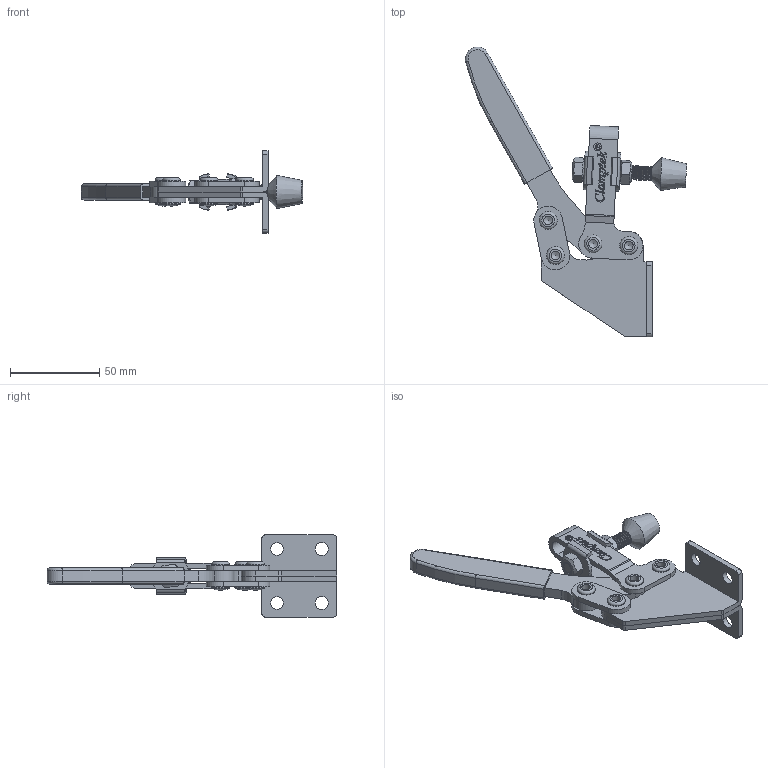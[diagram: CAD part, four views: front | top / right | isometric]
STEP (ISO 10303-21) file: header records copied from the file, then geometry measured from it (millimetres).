
FILE_DESCRIPTION(/* description */ ('STEP AP203'),/* implementation_level */ '2;1');
FILE_NAME(/* name */ 'E:\STRONA\Horizontal toggle clamp\CH-202-F\CH-202-F_OTWARTY.stp',/* time_stamp */ '2019-01-15T13:23:02+01:00',/* author */ ('Admin'),/* organization */ ('Î¢ÈíÖÐ¹ú'),/* preprocessor_version */ 'ST-DEVELOPER v17.2',/* originating_system */ 'Autodesk Inventor 2019',/* authorisation */ '');
FILE_SCHEMA (('AUTOMOTIVE_DESIGN { 1 0 10303 214 3 1 1 }'));
Products named in the file (11): CH-202-F_OTWARTY; 56212; 202-F-02; 03; 203-F-03; 203-F-03-02; 202-F-01; 56212-02; 203-F-04; 225-D-06; FW516
Assembly tree (16 placements, depth 3):
  CH-202-F_OTWARTY
    56212-02  x2
    56212
    225-D-06  x4
    202-F-02
    03
      203-F-03
      203-F-03-02
    202-F-01
    FW516  x2
    203-F-04  x2
Bounding box: 123.69 x 162.06 x 46 mm (x, y, z)
Volume: 57092 mm3; surface area: 46171.1 mm2
Topology: 16 solids, 16 shells, 612 faces, 1694 edges, 1147 vertices
Faces by surface type: plane 257, bspline 170, cylinder 145, torus 20, cone 16, sphere 4
Full cylindrical faces by diameter (mm): 2.8 x1, 4.4 x1, 4.833 x4, 6.3 x10, 6.4 x14, 7 x2, 7.4 x2, 7.92 x32, 8.1 x2, 10 x8
Entity records: 41262 total; most frequent: CARTESIAN_POINT 28246, ORIENTED_EDGE 2954, DIRECTION 2055, EDGE_CURVE 1477, VERTEX_POINT 996, LINE 797, VECTOR 797, AXIS2_PLACEMENT_3D 629
